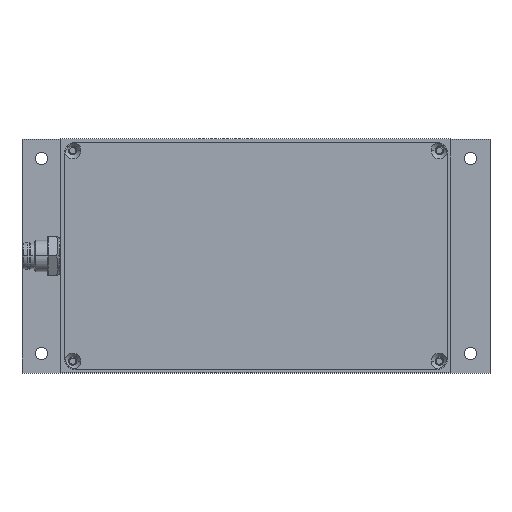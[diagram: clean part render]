
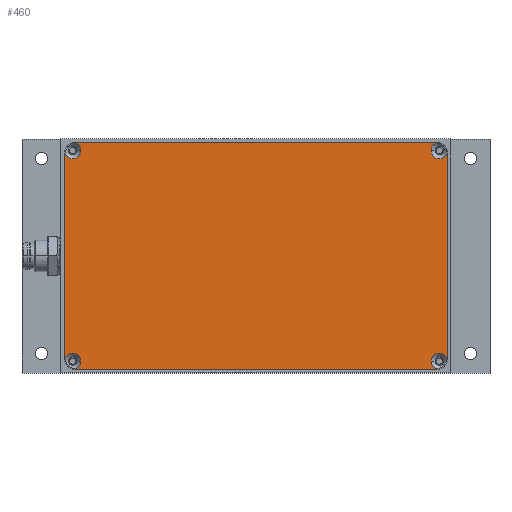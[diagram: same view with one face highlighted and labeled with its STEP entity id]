
A CAD part, top view. The second image highlights one B-rep face of the part: STEP entity #460.
In plain terms, the highlighted planar face has unit normal (0, 0, 1).
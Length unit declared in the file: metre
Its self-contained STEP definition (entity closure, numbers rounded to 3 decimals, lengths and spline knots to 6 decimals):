
#460=ADVANCED_FACE('0:3006',(#1041),#1042,.T.);
#1041=FACE_OUTER_BOUND('',#1762,.T.);
#1042=PLANE('',#1763);
#1762=EDGE_LOOP('',(#2936,#2937,#2938,#2939,#2940,#2941,#2942,#2943,#2944,#2945,#2946,#2947,#2948,#2949,#2950,#2951,#2952,#2953,#2954,#2955));
#1763=AXIS2_PLACEMENT_3D('',#2956,#2957,#2958);
#2936=ORIENTED_EDGE('',*,*,#4095,.T.);
#2937=ORIENTED_EDGE('',*,*,#4378,.T.);
#2938=ORIENTED_EDGE('',*,*,#4375,.T.);
#2939=ORIENTED_EDGE('',*,*,#4382,.F.);
#2940=ORIENTED_EDGE('',*,*,#4119,.T.);
#2941=ORIENTED_EDGE('',*,*,#4112,.T.);
#2942=ORIENTED_EDGE('',*,*,#4371,.T.);
#2943=ORIENTED_EDGE('',*,*,#4368,.T.);
#2944=ORIENTED_EDGE('',*,*,#4383,.F.);
#2945=ORIENTED_EDGE('',*,*,#4154,.T.);
#2946=ORIENTED_EDGE('',*,*,#4364,.T.);
#2947=ORIENTED_EDGE('',*,*,#4130,.T.);
#2948=ORIENTED_EDGE('',*,*,#4351,.T.);
#2949=ORIENTED_EDGE('',*,*,#4354,.F.);
#2950=ORIENTED_EDGE('',*,*,#4148,.T.);
#2951=ORIENTED_EDGE('',*,*,#4361,.T.);
#2952=ORIENTED_EDGE('',*,*,#4142,.T.);
#2953=ORIENTED_EDGE('',*,*,#4357,.T.);
#2954=ORIENTED_EDGE('',*,*,#4359,.F.);
#2955=ORIENTED_EDGE('',*,*,#4102,.T.);
#2956=CARTESIAN_POINT('',(-0.02,-0.001,0.021));
#2957=DIRECTION('',(0.0,0.0,1.0));
#2958=DIRECTION('',(1.0,-0.0,0.0));
#4095=EDGE_CURVE('0:3369',#4817,#4815,#4818,.T.);
#4102=EDGE_CURVE('0:3366',#4828,#4817,#4829,.F.);
#4112=EDGE_CURVE('0:3351',#4845,#4843,#4846,.T.);
#4119=EDGE_CURVE('0:3345',#4856,#4845,#4857,.F.);
#4130=EDGE_CURVE('0:3330',#4875,#4873,#4876,.T.);
#4142=EDGE_CURVE('0:3324',#4895,#4893,#4896,.T.);
#4148=EDGE_CURVE('0:3315',#4904,#4902,#4905,.F.);
#4154=EDGE_CURVE('0:3294',#4915,#4913,#4916,.F.);
#4351=EDGE_CURVE('0:3288',#4873,#5201,#5203,.F.);
#4354=EDGE_CURVE('0:3303',#4904,#5201,#5206,.T.);
#4357=EDGE_CURVE('0:3309',#4893,#5208,#5210,.F.);
#4359=EDGE_CURVE('0:3321',#4828,#5208,#5212,.T.);
#4361=EDGE_CURVE('0:3324',#4902,#4895,#5214,.T.);
#4364=EDGE_CURVE('0:3330',#4913,#4875,#5217,.T.);
#4368=EDGE_CURVE('0:3339',#5222,#5220,#5223,.F.);
#4371=EDGE_CURVE('0:3351',#4843,#5222,#5226,.T.);
#4375=EDGE_CURVE('0:3360',#5231,#5229,#5232,.F.);
#4378=EDGE_CURVE('0:3369',#4815,#5231,#5235,.T.);
#4382=EDGE_CURVE('0:3375',#4856,#5229,#5239,.T.);
#4383=EDGE_CURVE('0:3378',#4915,#5220,#5240,.T.);
#4815=VERTEX_POINT('',#5840);
#4817=VERTEX_POINT('',#5843);
#4818=CIRCLE('',#5844,0.0021);
#4828=VERTEX_POINT('',#5898);
#4829=CIRCLE('',#5899,0.003);
#4843=VERTEX_POINT('',#5916);
#4845=VERTEX_POINT('',#5919);
#4846=CIRCLE('',#5920,0.0021);
#4856=VERTEX_POINT('',#5974);
#4857=CIRCLE('',#5975,0.003);
#4873=VERTEX_POINT('',#5995);
#4875=VERTEX_POINT('',#6018);
#4876=CIRCLE('',#6019,0.0021);
#4893=VERTEX_POINT('',#6061);
#4895=VERTEX_POINT('',#6084);
#4896=CIRCLE('',#6085,0.0021);
#4902=VERTEX_POINT('',#6093);
#4904=VERTEX_POINT('',#6116);
#4905=CIRCLE('',#6117,0.003);
#4913=VERTEX_POINT('',#6127);
#4915=VERTEX_POINT('',#6150);
#4916=CIRCLE('',#6151,0.003);
#5201=VERTEX_POINT('',#6515);
#5203=CIRCLE('',#6518,0.003);
#5206=LINE('',#6542,#6543);
#5208=VERTEX_POINT('',#6545);
#5210=CIRCLE('',#6548,0.003);
#5212=LINE('',#6550,#6551);
#5214=CIRCLE('',#6553,0.0021);
#5217=CIRCLE('',#6556,0.0021);
#5220=VERTEX_POINT('',#6559);
#5222=VERTEX_POINT('',#6562);
#5223=CIRCLE('',#6563,0.003);
#5226=CIRCLE('',#6587,0.0021);
#5229=VERTEX_POINT('',#6590);
#5231=VERTEX_POINT('',#6593);
#5232=CIRCLE('',#6594,0.003);
#5235=CIRCLE('',#6618,0.0021);
#5239=LINE('',#6622,#6623);
#5240=LINE('',#6624,#6625);
#5840=CARTESIAN_POINT('',(0.0249,-0.028,0.021));
#5843=CARTESIAN_POINT('',(0.026311,-0.029984,0.021));
#5844=AXIS2_PLACEMENT_3D('',#7402,#7403,#7404);
#5898=CARTESIAN_POINT('',(0.026,-0.03,0.021));
#5899=AXIS2_PLACEMENT_3D('',#7410,#7411,#7412);
#5916=CARTESIAN_POINT('',(0.0249,0.026,0.021));
#5919=CARTESIAN_POINT('',(0.028984,0.025311,0.021));
#5920=AXIS2_PLACEMENT_3D('',#7426,#7427,#7428);
#5974=CARTESIAN_POINT('',(0.029,0.025,0.021));
#5975=AXIS2_PLACEMENT_3D('',#7434,#7435,#7436);
#5995=CARTESIAN_POINT('',(-0.068984,0.025311,0.021));
#6018=CARTESIAN_POINT('',(-0.0649,0.026,0.021));
#6019=AXIS2_PLACEMENT_3D('',#7450,#7451,#7452);
#6061=CARTESIAN_POINT('',(-0.066311,-0.029984,0.021));
#6084=CARTESIAN_POINT('',(-0.0649,-0.028,0.021));
#6085=AXIS2_PLACEMENT_3D('',#7466,#7467,#7468);
#6093=CARTESIAN_POINT('',(-0.068984,-0.027311,0.021));
#6116=CARTESIAN_POINT('',(-0.069,-0.027,0.021));
#6117=AXIS2_PLACEMENT_3D('',#7474,#7475,#7476);
#6127=CARTESIAN_POINT('',(-0.066311,0.027984,0.021));
#6150=CARTESIAN_POINT('',(-0.066,0.028,0.021));
#6151=AXIS2_PLACEMENT_3D('',#7482,#7483,#7484);
#6515=CARTESIAN_POINT('',(-0.069,0.025,0.021));
#6518=AXIS2_PLACEMENT_3D('',#7748,#7749,#7750);
#6542=CARTESIAN_POINT('',(-0.069,-0.001,0.021));
#6543=VECTOR('',#7751,1.0);
#6545=CARTESIAN_POINT('',(-0.066,-0.03,0.021));
#6548=AXIS2_PLACEMENT_3D('',#7753,#7754,#7755);
#6550=CARTESIAN_POINT('',(-0.02,-0.03,0.021));
#6551=VECTOR('',#7756,1.0);
#6553=AXIS2_PLACEMENT_3D('',#7757,#7758,#7759);
#6556=AXIS2_PLACEMENT_3D('',#7760,#7761,#7762);
#6559=CARTESIAN_POINT('',(0.026,0.028,0.021));
#6562=CARTESIAN_POINT('',(0.026311,0.027984,0.021));
#6563=AXIS2_PLACEMENT_3D('',#7764,#7765,#7766);
#6587=AXIS2_PLACEMENT_3D('',#7767,#7768,#7769);
#6590=CARTESIAN_POINT('',(0.029,-0.027,0.021));
#6593=CARTESIAN_POINT('',(0.028984,-0.027311,0.021));
#6594=AXIS2_PLACEMENT_3D('',#7771,#7772,#7773);
#6618=AXIS2_PLACEMENT_3D('',#7774,#7775,#7776);
#6622=CARTESIAN_POINT('',(0.029,-0.001,0.021));
#6623=VECTOR('',#7777,1.0);
#6624=CARTESIAN_POINT('',(-0.02,0.028,0.021));
#6625=VECTOR('',#7778,1.0);
#7402=CARTESIAN_POINT('',(0.027,-0.028,0.021));
#7403=DIRECTION('',(0.0,0.0,-1.0));
#7404=DIRECTION('',(-1.0,0.0,0.0));
#7410=CARTESIAN_POINT('',(0.026,-0.027,0.021));
#7411=DIRECTION('',(0.0,-0.0,-1.0));
#7412=DIRECTION('',(0.707,-0.707,0.0));
#7426=CARTESIAN_POINT('',(0.027,0.026,0.021));
#7427=DIRECTION('',(-0.0,0.0,-1.0));
#7428=DIRECTION('',(-1.0,0.,0.0));
#7434=CARTESIAN_POINT('',(0.026,0.025,0.021));
#7435=DIRECTION('',(0.0,0.0,-1.0));
#7436=DIRECTION('',(0.707,0.707,0.0));
#7450=CARTESIAN_POINT('',(-0.067,0.026,0.021));
#7451=DIRECTION('',(-0.0,0.0,-1.0));
#7452=DIRECTION('',(-1.0,0.,0.0));
#7466=CARTESIAN_POINT('',(-0.067,-0.028,0.021));
#7467=DIRECTION('',(0.0,0.0,-1.0));
#7468=DIRECTION('',(-1.0,0.,0.0));
#7474=CARTESIAN_POINT('',(-0.066,-0.027,0.021));
#7475=DIRECTION('',(-0.0,0.0,-1.0));
#7476=DIRECTION('',(-0.707,-0.707,0.0));
#7482=CARTESIAN_POINT('',(-0.066,0.025,0.021));
#7483=DIRECTION('',(0.0,0.0,-1.0));
#7484=DIRECTION('',(-0.707,0.707,0.0));
#7748=CARTESIAN_POINT('',(-0.066,0.025,0.021));
#7749=DIRECTION('',(0.0,0.0,-1.0));
#7750=DIRECTION('',(-0.707,0.707,0.0));
#7751=DIRECTION('',(0.0,1.0,-0.0));
#7753=CARTESIAN_POINT('',(-0.066,-0.027,0.021));
#7754=DIRECTION('',(-0.0,0.0,-1.0));
#7755=DIRECTION('',(-0.707,-0.707,0.0));
#7756=DIRECTION('',(-1.0,0.0,0.0));
#7757=CARTESIAN_POINT('',(-0.067,-0.028,0.021));
#7758=DIRECTION('',(0.0,0.0,-1.0));
#7759=DIRECTION('',(-1.0,0.,0.0));
#7760=CARTESIAN_POINT('',(-0.067,0.026,0.021));
#7761=DIRECTION('',(-0.0,0.0,-1.0));
#7762=DIRECTION('',(-1.0,0.,0.0));
#7764=CARTESIAN_POINT('',(0.026,0.025,0.021));
#7765=DIRECTION('',(0.0,0.0,-1.0));
#7766=DIRECTION('',(0.707,0.707,0.0));
#7767=CARTESIAN_POINT('',(0.027,0.026,0.021));
#7768=DIRECTION('',(-0.0,0.0,-1.0));
#7769=DIRECTION('',(-1.0,0.,0.0));
#7771=CARTESIAN_POINT('',(0.026,-0.027,0.021));
#7772=DIRECTION('',(0.0,-0.0,-1.0));
#7773=DIRECTION('',(0.707,-0.707,0.0));
#7774=CARTESIAN_POINT('',(0.027,-0.028,0.021));
#7775=DIRECTION('',(0.0,0.0,-1.0));
#7776=DIRECTION('',(-1.0,0.0,0.0));
#7777=DIRECTION('',(0.,-1.0,0.0));
#7778=DIRECTION('',(1.0,0.0,0.0));
